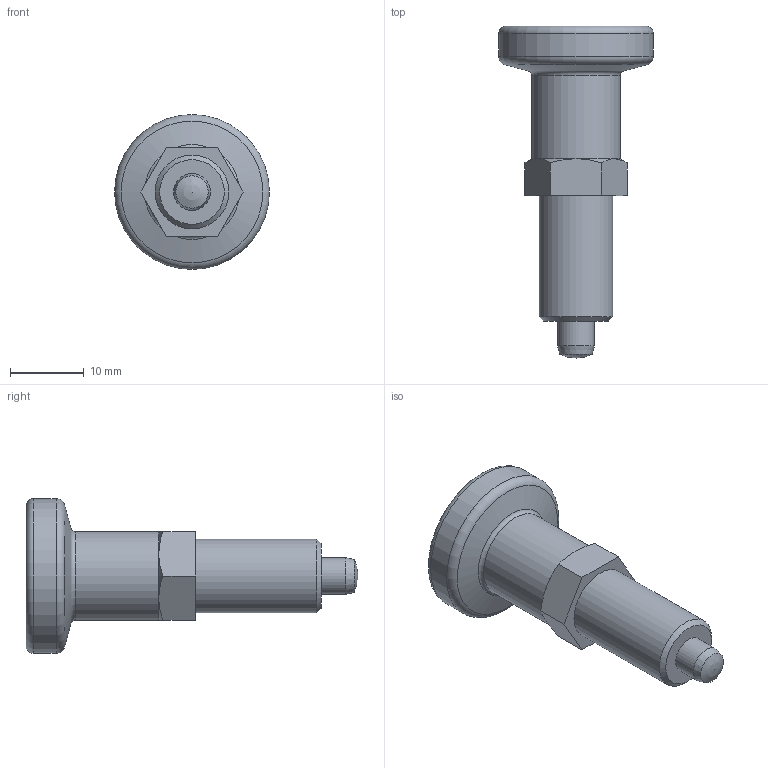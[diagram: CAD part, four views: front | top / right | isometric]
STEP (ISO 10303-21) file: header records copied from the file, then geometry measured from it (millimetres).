
FILE_DESCRIPTION( ( 'STEP AP203' ), '1' );
FILE_NAME( 'C:/Temp/Ganter_Step_05_03_2020/data/3_1/gn617_n/gn617n_a/Stainless Steel Indexing plunger GN 617-5-A-NI (deactivated).stp', '2020-03-12T08:42:55', ( 'License CC BY-ND 4.0' ), ( 'CADENAS' ), ' ', 'PARTsolutions', ' ' );
FILE_SCHEMA( ( 'CONFIG_CONTROL_DESIGN' ) );
Length unit declared in the file: millimetre
Products named in the file (3): Stainless Steel Indexing plunger GN 617-5-A-NI (deactivated); _Stainless Steel-Indexing plunger GN 617-5-A-NI -2; _Indexing plunger GN 617-5-A-NI (0)-1
Assembly tree (2 placements, depth 2):
  Stainless Steel Indexing plunger GN 617-5-A-NI (deactivated)
    _Stainless Steel-Indexing plunger GN 617-5-A-NI -2
    _Indexing plunger GN 617-5-A-NI (0)-1
Bounding box: 21 x 45 x 21 mm (x, y, z)
Volume: 5137.6 mm3; surface area: 3324.8 mm2
Topology: 2 solids, 2 shells, 38 faces, 73 edges, 44 vertices
Faces by surface type: plane 15, cone 9, cylinder 9, torus 3, bspline 1, sphere 1
Full cylindrical faces by diameter (mm): 5 x4, 8 x2, 10 x1, 11.99 x1, 21 x1
Entity records: 1031 total; most frequent: CARTESIAN_POINT 226, DIRECTION 152, ORIENTED_EDGE 108, AXIS2_PLACEMENT_3D 70, EDGE_LOOP 62, EDGE_CURVE 54, FACE_OUTER_BOUND 50, VERTEX_POINT 44
